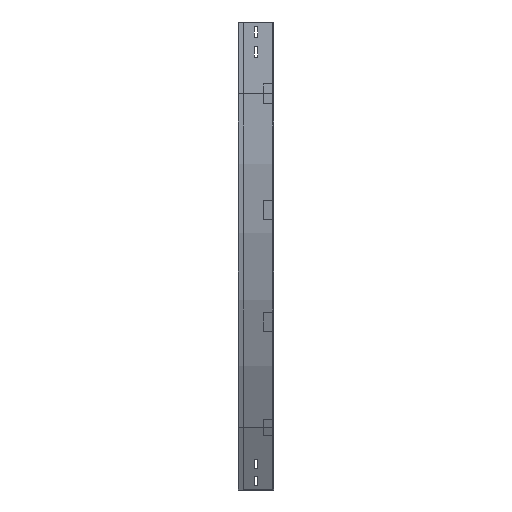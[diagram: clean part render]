
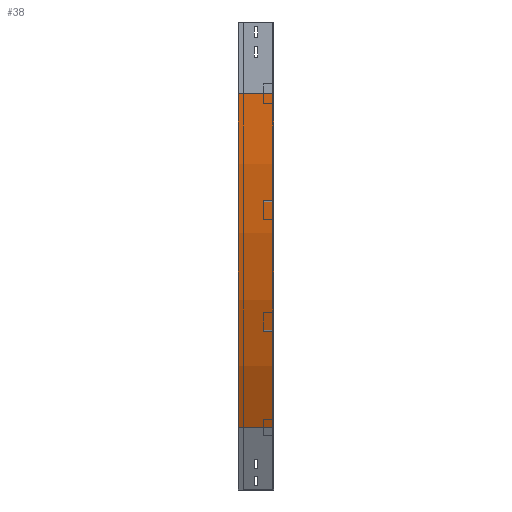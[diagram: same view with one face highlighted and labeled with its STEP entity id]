
A CAD part, left-side view. The second image highlights one B-rep face of the part: STEP entity #38.
In plain terms, the highlighted cylindrical face has radius 1400 mm (diameter 2800 mm), a partial arc.
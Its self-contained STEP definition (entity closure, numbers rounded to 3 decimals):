
#38 = ADVANCED_FACE ( 'NONE', ( #3286 ), #1218, .T. ) ;
#139 = CARTESIAN_POINT ( 'NONE',  ( 1400., 0., -150. ) ) ;
#162 = LINE ( 'NONE', #3396, #3386 ) ;
#402 = DIRECTION ( 'NONE',  ( 0., -1., 0. ) ) ;
#594 = VECTOR ( 'NONE', #402, 1000. ) ;
#665 = ORIENTED_EDGE ( 'NONE', *, *, #3322, .F. ) ;
#704 = DIRECTION ( 'NONE',  ( -1., 0., 0. ) ) ;
#982 = DIRECTION ( 'NONE',  ( 0., -1., 0. ) ) ;
#1113 = CARTESIAN_POINT ( 'NONE',  ( 0., 0., -150. ) ) ;
#1198 = LINE ( 'NONE', #1221, #594 ) ;
#1218 = CYLINDRICAL_SURFACE ( 'NONE', #3201, 1400. ) ;
#1221 = CARTESIAN_POINT ( 'NONE',  ( 187.564, 0., -850. ) ) ;
#1231 = CARTESIAN_POINT ( 'NONE',  ( 187.564, 75., -850. ) ) ;
#1339 = ORIENTED_EDGE ( 'NONE', *, *, #1532, .T. ) ;
#1345 = DIRECTION ( 'NONE',  ( 0., -1., 0. ) ) ;
#1394 = DIRECTION ( 'NONE',  ( 0., -1., 0. ) ) ;
#1532 = EDGE_CURVE ( 'NONE', #1756, #1673, #1198, .T. ) ;
#1673 = VERTEX_POINT ( 'NONE', #2570 ) ;
#1714 = EDGE_CURVE ( 'NONE', #2040, #1756, #2529, .T. ) ;
#1718 = DIRECTION ( 'NONE',  ( -1., 0., 0. ) ) ;
#1756 = VERTEX_POINT ( 'NONE', #1231 ) ;
#1882 = EDGE_CURVE ( 'NONE', #2434, #1673, #2463, .T. ) ;
#1904 = AXIS2_PLACEMENT_3D ( 'NONE', #139, #982, #704 ) ;
#2040 = VERTEX_POINT ( 'NONE', #2873 ) ;
#2254 = ORIENTED_EDGE ( 'NONE', *, *, #1714, .T. ) ;
#2408 = DIRECTION ( 'NONE',  ( 0., -1., 0. ) ) ;
#2434 = VERTEX_POINT ( 'NONE', #1113 ) ;
#2439 = ORIENTED_EDGE ( 'NONE', *, *, #1882, .F. ) ;
#2463 = CIRCLE ( 'NONE', #1904, 1400. ) ;
#2529 = CIRCLE ( 'NONE', #2775, 1400. ) ;
#2570 = CARTESIAN_POINT ( 'NONE',  ( 187.564, 0., -850. ) ) ;
#2699 = CARTESIAN_POINT ( 'NONE',  ( 1400., 0., -150. ) ) ;
#2775 = AXIS2_PLACEMENT_3D ( 'NONE', #3570, #1394, #1718 ) ;
#2873 = CARTESIAN_POINT ( 'NONE',  ( 0., 75., -150. ) ) ;
#3201 = AXIS2_PLACEMENT_3D ( 'NONE', #2699, #2408, #3266 ) ;
#3259 = EDGE_LOOP ( 'NONE', ( #2439, #665, #2254, #1339 ) ) ;
#3266 = DIRECTION ( 'NONE',  ( 0., 0., -1. ) ) ;
#3286 = FACE_OUTER_BOUND ( 'NONE', #3259, .T. ) ;
#3322 = EDGE_CURVE ( 'NONE', #2040, #2434, #162, .T. ) ;
#3386 = VECTOR ( 'NONE', #1345, 1000. ) ;
#3396 = CARTESIAN_POINT ( 'NONE',  ( 0., 0., -150. ) ) ;
#3570 = CARTESIAN_POINT ( 'NONE',  ( 1400., 75., -150. ) ) ;
